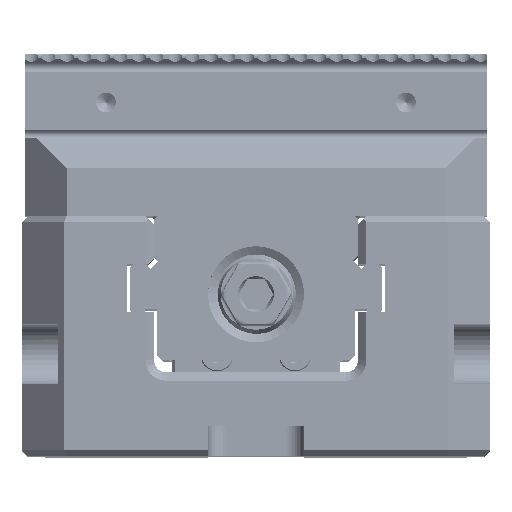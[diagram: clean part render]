
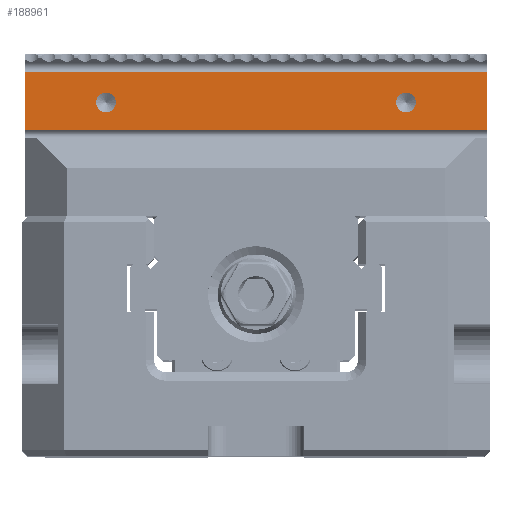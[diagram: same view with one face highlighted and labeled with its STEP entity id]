
A CAD part, top view. The second image highlights one B-rep face of the part: STEP entity #188961.
In plain terms, the highlighted planar face has unit normal (0, 0, 1).
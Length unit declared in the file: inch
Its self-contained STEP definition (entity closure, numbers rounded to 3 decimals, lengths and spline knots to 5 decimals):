
#10777 = VECTOR ( 'NONE', #208816, 39.37008 ) ;
#11989 = CARTESIAN_POINT ( 'NONE',  ( -0.01969, 2.51969, 4.2126 ) ) ;
#20296 = CIRCLE ( 'NONE', #245026, 0.06496 ) ;
#21946 = DIRECTION ( 'NONE',  ( 0., 0., 1. ) ) ;
#27540 = AXIS2_PLACEMENT_3D ( 'NONE', #160303, #298084, #279595 ) ;
#31719 = EDGE_CURVE ( 'NONE', #163297, #64152, #184600, .T. ) ;
#41762 = CARTESIAN_POINT ( 'NONE',  ( -3.05118, 2.14229, 4.2126 ) ) ;
#48723 = DIRECTION ( 'NONE',  ( 1., 0., 0. ) ) ;
#57876 = ORIENTED_EDGE ( 'NONE', *, *, #123724, .F. ) ;
#58511 = VERTEX_POINT ( 'NONE', #196180 ) ;
#60080 = ORIENTED_EDGE ( 'NONE', *, *, #190275, .F. ) ;
#60124 = LINE ( 'NONE', #222382, #195217 ) ;
#64152 = VERTEX_POINT ( 'NONE', #289078 ) ;
#65987 = EDGE_CURVE ( 'NONE', #218262, #253509, #60124, .T. ) ;
#66252 = AXIS2_PLACEMENT_3D ( 'NONE', #41762, #130655, #136701 ) ;
#71323 = ORIENTED_EDGE ( 'NONE', *, *, #187986, .F. ) ;
#74666 = ORIENTED_EDGE ( 'NONE', *, *, #216430, .F. ) ;
#79538 = ORIENTED_EDGE ( 'NONE', *, *, #65987, .T. ) ;
#80099 = CARTESIAN_POINT ( 'NONE',  ( -3.05118, 2.14229, 4.2126 ) ) ;
#81146 = CARTESIAN_POINT ( 'NONE',  ( -3.05118, 2.55118, 4.2126 ) ) ;
#100745 = VERTEX_POINT ( 'NONE', #80099 ) ;
#101093 = ORIENTED_EDGE ( 'NONE', *, *, #157628, .F. ) ;
#102977 = DIRECTION ( 'NONE',  ( -1., 0., 0. ) ) ;
#104394 = CARTESIAN_POINT ( 'NONE',  ( -2.51969, 2.32283, 4.2126 ) ) ;
#106123 = FACE_BOUND ( 'NONE', #142924, .T. ) ;
#110857 = CARTESIAN_POINT ( 'NONE',  ( -0.01969, 2.55118, 4.2126 ) ) ;
#111129 = EDGE_CURVE ( 'NONE', #170916, #218262, #225797, .T. ) ;
#123724 = EDGE_CURVE ( 'NONE', #100745, #253509, #154591, .T. ) ;
#130514 = LINE ( 'NONE', #156571, #148752 ) ;
#130655 = DIRECTION ( 'NONE',  ( 0., 0., -1. ) ) ;
#136701 = DIRECTION ( 'NONE',  ( -1., 0., 0. ) ) ;
#142924 = EDGE_LOOP ( 'NONE', ( #60080, #101093 ) ) ;
#143670 = DIRECTION ( 'NONE',  ( 0., 0., 1. ) ) ;
#148752 = VECTOR ( 'NONE', #248322, 39.37008 ) ;
#154591 = LINE ( 'NONE', #81146, #173148 ) ;
#156571 = CARTESIAN_POINT ( 'NONE',  ( -3.05118, 2.14229, 4.2126 ) ) ;
#157628 = EDGE_CURVE ( 'NONE', #172023, #58511, #208760, .T. ) ;
#160303 = CARTESIAN_POINT ( 'NONE',  ( -0.55118, 2.32283, 4.2126 ) ) ;
#162792 = DIRECTION ( 'NONE',  ( 1., 0., 0. ) ) ;
#163297 = VERTEX_POINT ( 'NONE', #205619 ) ;
#169105 = PLANE ( 'NONE',  #66252 ) ;
#169641 = CARTESIAN_POINT ( 'NONE',  ( -2.51969, 2.32283, 4.2126 ) ) ;
#170916 = VERTEX_POINT ( 'NONE', #184190 ) ;
#172023 = VERTEX_POINT ( 'NONE', #174626 ) ;
#173148 = VECTOR ( 'NONE', #267800, 39.37008 ) ;
#173434 = DIRECTION ( 'NONE',  ( 1., 0., 0. ) ) ;
#174626 = CARTESIAN_POINT ( 'NONE',  ( -0.61614, 2.32283, 4.2126 ) ) ;
#184190 = CARTESIAN_POINT ( 'NONE',  ( -0.01969, 2.14229, 4.2126 ) ) ;
#184600 = CIRCLE ( 'NONE', #238264, 0.06496 ) ;
#187986 = EDGE_CURVE ( 'NONE', #170916, #100745, #130514, .T. ) ;
#188961 = ADVANCED_FACE ( 'NONE', ( #106123, #199557, #292942 ), #169105, .F. ) ;
#190275 = EDGE_CURVE ( 'NONE', #58511, #172023, #262134, .T. ) ;
#195217 = VECTOR ( 'NONE', #102977, 39.37008 ) ;
#196180 = CARTESIAN_POINT ( 'NONE',  ( -0.48622, 2.32283, 4.2126 ) ) ;
#199557 = FACE_BOUND ( 'NONE', #218128, .T. ) ;
#200920 = ORIENTED_EDGE ( 'NONE', *, *, #111129, .T. ) ;
#205619 = CARTESIAN_POINT ( 'NONE',  ( -2.45472, 2.32283, 4.2126 ) ) ;
#205916 = ORIENTED_EDGE ( 'NONE', *, *, #31719, .F. ) ;
#208760 = CIRCLE ( 'NONE', #287015, 0.06496 ) ;
#208816 = DIRECTION ( 'NONE',  ( 0., 1., 0. ) ) ;
#213194 = CARTESIAN_POINT ( 'NONE',  ( -0.55118, 2.32283, 4.2126 ) ) ;
#216430 = EDGE_CURVE ( 'NONE', #64152, #163297, #20296, .T. ) ;
#218128 = EDGE_LOOP ( 'NONE', ( #205916, #74666 ) ) ;
#218262 = VERTEX_POINT ( 'NONE', #11989 ) ;
#222382 = CARTESIAN_POINT ( 'NONE',  ( -3.05118, 2.51969, 4.2126 ) ) ;
#225797 = LINE ( 'NONE', #110857, #10777 ) ;
#233963 = EDGE_LOOP ( 'NONE', ( #79538, #57876, #71323, #200920 ) ) ;
#238264 = AXIS2_PLACEMENT_3D ( 'NONE', #169641, #143670, #48723 ) ;
#245026 = AXIS2_PLACEMENT_3D ( 'NONE', #104394, #292701, #173434 ) ;
#248322 = DIRECTION ( 'NONE',  ( -1., 0., 0. ) ) ;
#253509 = VERTEX_POINT ( 'NONE', #288834 ) ;
#262134 = CIRCLE ( 'NONE', #27540, 0.06496 ) ;
#267800 = DIRECTION ( 'NONE',  ( 0., 1., 0. ) ) ;
#279595 = DIRECTION ( 'NONE',  ( 1., 0., 0. ) ) ;
#287015 = AXIS2_PLACEMENT_3D ( 'NONE', #213194, #21946, #162792 ) ;
#288834 = CARTESIAN_POINT ( 'NONE',  ( -3.05118, 2.51969, 4.2126 ) ) ;
#289078 = CARTESIAN_POINT ( 'NONE',  ( -2.58465, 2.32283, 4.2126 ) ) ;
#292701 = DIRECTION ( 'NONE',  ( 0., 0., 1. ) ) ;
#292942 = FACE_OUTER_BOUND ( 'NONE', #233963, .T. ) ;
#298084 = DIRECTION ( 'NONE',  ( 0., 0., 1. ) ) ;
